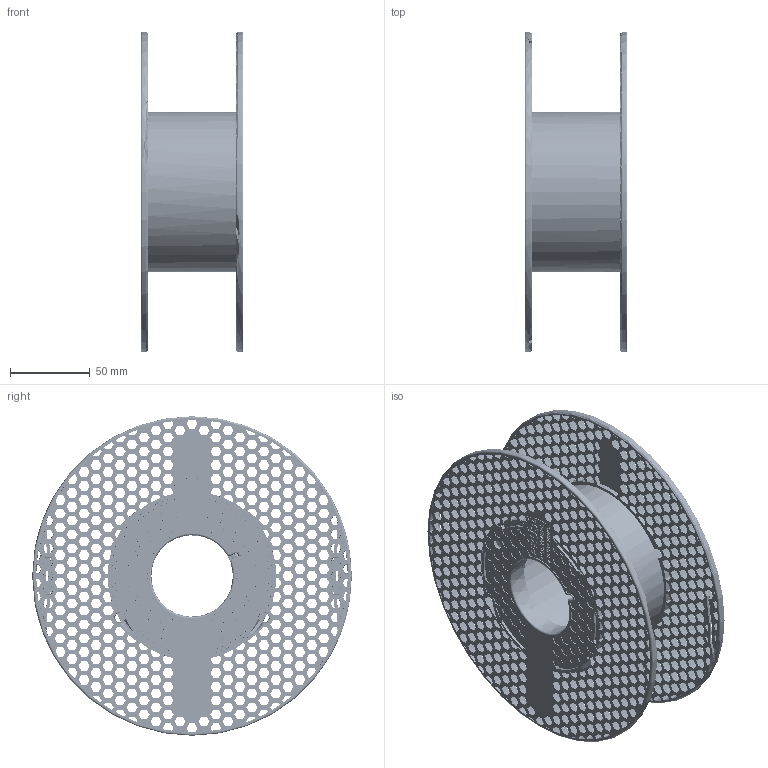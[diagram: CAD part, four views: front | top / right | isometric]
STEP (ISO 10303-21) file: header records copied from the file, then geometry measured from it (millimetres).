
FILE_DESCRIPTION(/* description */ (''),/* implementation_level */ '2;1');
FILE_NAME(/* name */ 'C:\Users\Jiří Bílek\Documents\Inventor\1 projekty\186_civka\soutez civka\civka.stp',/* time_stamp */ '2026-01-20T12:49:30+01:00',/* author */ ('Jiří Bílek'),/* organization */ (''),/* preprocessor_version */ 'ST-DEVELOPER v17',/* originating_system */ 'Autodesk Inventor 2019',/* authorisation */ '');
FILE_SCHEMA (('AUTOMOTIVE_DESIGN { 1 0 10303 214 3 1 1 }'));
Length unit declared in the file: millimetre
Products named in the file (1): Součást4
Bounding box: 64.13 x 199.89 x 199.89 mm (x, y, z)
Volume: 181112.1 mm3; surface area: 192007.6 mm2
Topology: 1 solids, 1 shells, 11056 faces, 32302 edges, 21436 vertices
Faces by surface type: plane 5904, cylinder 3704, bspline 944, cone 496, torus 8
Full cylindrical faces by diameter (mm): 96.2 x1, 100.6 x1
Entity records: 399242 total; most frequent: CARTESIAN_POINT 103714, ORIENTED_EDGE 64572, DIRECTION 58192, EDGE_CURVE 32286, VERTEX_POINT 21436, LINE 21018, VECTOR 21018, AXIS2_PLACEMENT_3D 18587
